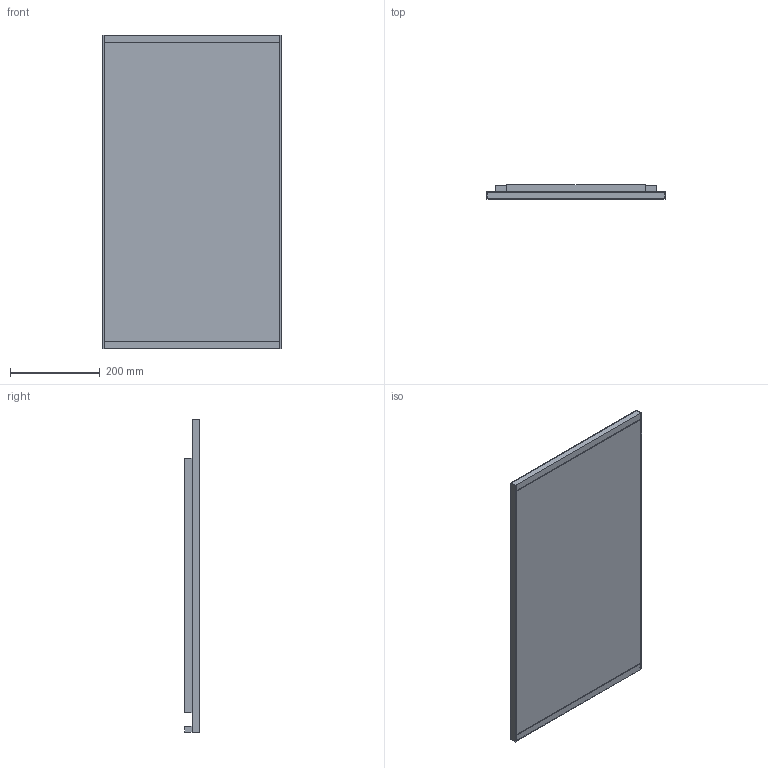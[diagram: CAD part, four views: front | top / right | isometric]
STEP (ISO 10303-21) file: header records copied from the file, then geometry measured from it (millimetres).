
FILE_DESCRIPTION(/* description */ (''),/* implementation_level */ '2;1');
FILE_NAME(/* name */ 'C:\Planerdaten\Export PLA\502.780.00.1\stp\502780.stp',/* time_stamp */ '2022-12-02T15:02:56+01:00',/* author */ ('JANAN'),/* organization */ (''),/* preprocessor_version */ 'ST-DEVELOPER v18.1',/* originating_system */ 'Autodesk Inventor 2021',/* authorisation */ '');
FILE_SCHEMA (('AUTOMOTIVE_DESIGN { 1 0 10303 214 3 1 1 }'));
Length unit declared in the file: millimetre
Products named in the file (1): tmpE2.tmp
Bounding box: 400 x 32 x 700 mm (x, y, z)
Volume: 7028521.5 mm3; surface area: 1274481 mm2
Topology: 4 solids, 4 shells, 63 faces, 154 edges, 104 vertices
Faces by surface type: plane 59, cylinder 4
Full cylindrical faces by diameter (mm): 8 x4
Entity records: 1959 total; most frequent: CARTESIAN_POINT 322, ORIENTED_EDGE 308, DIRECTION 298, EDGE_CURVE 154, LINE 138, VECTOR 138, VERTEX_POINT 104, AXIS2_PLACEMENT_3D 80
